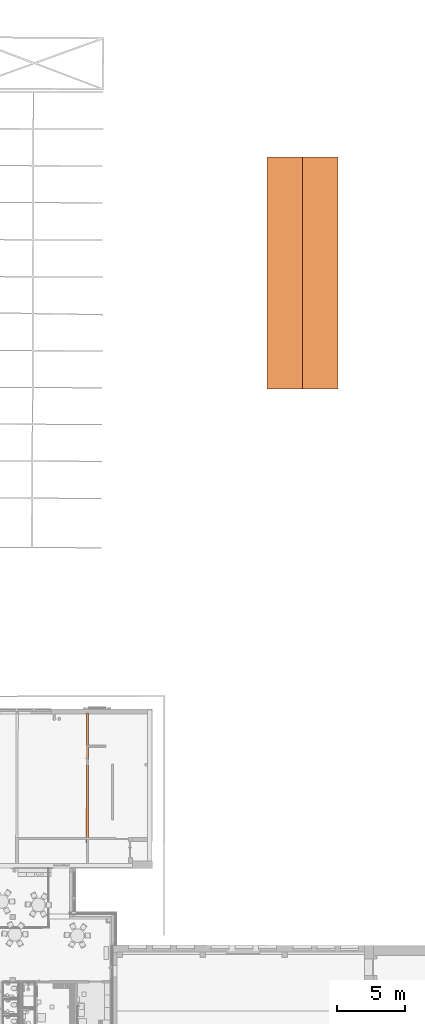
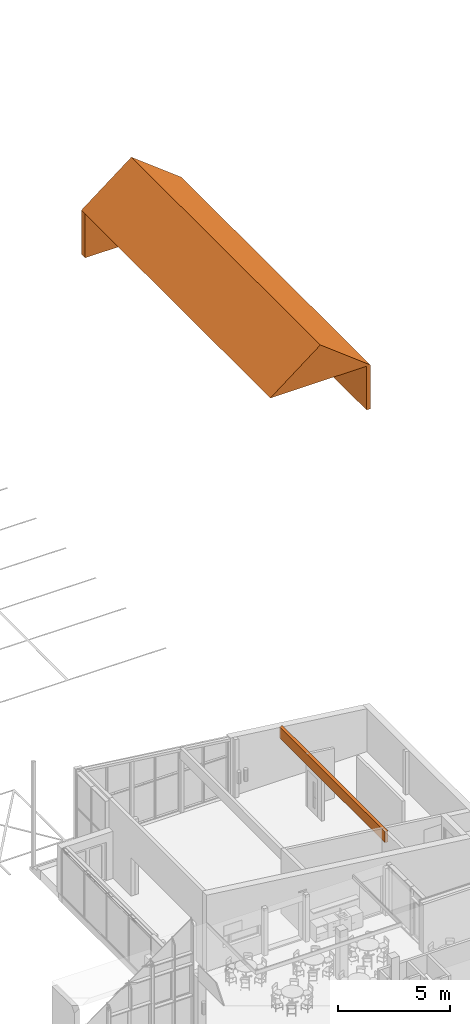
# One storey, part 299 of 301: 2 proxies.
"""IFC2X3 building model written with IfcOpenShell, lengths in millimetres."""

from ifc_helpers import new_model, entity, si_unit, converted_unit, derived_unit, money_unit, direction, frame, origin_with_axes, place, context, subcontext, project, spatial, faceted_brep, material, type_object, element, save


model = new_model("IFC2X3")

# Units and contexts
model_context = context("Model", 3, precision=0.01, world=origin_with_axes(), true_north=direction((0.0, 1.0)))
body_context = subcontext(model_context, "Body", "Model", "MODEL_VIEW")
ifc_project = project(units=[si_unit("LENGTHUNIT", "METRE", prefix="MILLI"), si_unit("AREAUNIT", "SQUARE_METRE"), si_unit("VOLUMEUNIT", "CUBIC_METRE"), converted_unit("PLANEANGLEUNIT", "DEGREE", entity("IfcPlaneAngleMeasure", 0.0174532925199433), si_unit("PLANEANGLEUNIT", "RADIAN"), dimensions=[0, 0, 0, 0, 0, 0, 0]), money_unit("EUR"), converted_unit("TIMEUNIT", "Year", entity("IfcTimeMeasure", 31557600.0), si_unit("TIMEUNIT", "SECOND"), dimensions=[0, 0, 1, 0, 0, 0, 0]), si_unit("MASSUNIT", "GRAM", prefix="KILO"), si_unit("THERMODYNAMICTEMPERATUREUNIT", "DEGREE_CELSIUS"), si_unit("LUMINOUSINTENSITYUNIT", "LUMEN"), si_unit("ENERGYUNIT", "JOULE", prefix="MEGA"), derived_unit("THERMALCONDUCTANCEUNIT", [(si_unit("POWERUNIT", "WATT"), 1), (si_unit("LENGTHUNIT", "METRE"), -1), (si_unit("THERMODYNAMICTEMPERATUREUNIT", "KELVIN"), -1)]), derived_unit("SPECIFICHEATCAPACITYUNIT", [(si_unit("ENERGYUNIT", "JOULE"), 1), (si_unit("MASSUNIT", "GRAM", prefix="KILO"), -1), (si_unit("THERMODYNAMICTEMPERATUREUNIT", "KELVIN"), -1)]), derived_unit("MASSDENSITYUNIT", [(si_unit("MASSUNIT", "GRAM", prefix="KILO"), 1), (si_unit("VOLUMEUNIT", "CUBIC_METRE"), -1)])], contexts=[model_context])

# Site, building, storey
site_placement = place(None, frame((0.0, 0.0, 8650.0), z_axis=(0.0, 0.0, 1.0), x_axis=(1.0, 0.0, 0.0)))
site = spatial("IfcSite", under=ifc_project, at=site_placement, Name="43301:001:0844", CompositionType="ELEMENT")
building_placement = place(site_placement, origin_with_axes())
building = spatial("IfcBuilding", under=site, at=building_placement, Name="Kuressaare Ametikooli tuulikute mehaanikute õppekorpus", CompositionType="ELEMENT")
storey_placement = place(building_placement, origin_with_axes())
storey = spatial("IfcBuildingStorey", under=building, at=storey_placement, Name="1.korrus", CompositionType="ELEMENT", Elevation=0.0)

# Proxies
ifc_material = material(Name="GENEERILINE - KONSTRUKTRIOON")
building_element_proxy_type_1 = type_object("IfcBuildingElementProxyType", Name="GENEERILINE - KONSTRUKTRIOON 160 x 600", PredefinedType="NOTDEFINED")
proxy_1_placement = place(storey_placement, frame((131380.9304994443, 43298.05325088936, 2889.613193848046), z_axis=(0.0, 0.0, 1.0), x_axis=(-0.9999976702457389, 0.002158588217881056, 0.0)))
element("IfcBuildingElementProxy", 1, at=proxy_1_placement, inside=storey, type_object=building_element_proxy_type_1, material=ifc_material, context=body_context, shape_type="Brep", body=[
    faceted_brep([(-80.0000000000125, 0.0, -600.0000000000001), (-80.0000000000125, 9498.29101877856, -600.0000000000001), (79.99999999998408, 9498.291018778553, -600.0000000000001), (79.99999999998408, 0.0, -600.0000000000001), (-80.0000000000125, 0.0, 0.0), (-80.0000000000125, 9498.29101877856, 0.0), (79.99999999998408, 9498.291018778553, 0.0), (79.99999999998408, 0.0, 0.0)], [[[0, 1, 2, 3]], [[4, 5, 1, 0]], [[2, 1, 5, 6]], [[3, 2, 6, 7]], [[4, 0, 3, 7]], [[7, 6, 5, 4]]]),
])
building_element_proxy_type_2 = type_object("IfcBuildingElementProxyType", Name="GENEERILINE - KONSTRUKTRIOON", PredefinedType="NOTDEFINED")
proxy_2_placement = place(storey_placement, frame((144489.8277229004, 83889.6449379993, -500.0), z_axis=(0.0, 0.0, 1.0), x_axis=(1.0, 0.0, 0.0)))
element("IfcBuildingElementProxy", 2, at=proxy_2_placement, inside=storey, type_object=building_element_proxy_type_2, material=ifc_material, context=body_context, shape_type="Brep", body=[
    faceted_brep([(0.0, -16943.94101561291, 2400.0), (0.0, -341.6545799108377, 2399.999999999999), (4979.99999999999, -341.6545799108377, 2399.999999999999), (4979.99999999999, -16943.94101561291, 2400.0), (2586.471164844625, -16943.94101561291, 4400.0), (2586.471164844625, 0.0, 4400.0), (0.0, 0.0, 2400.0), (0.0, -341.6545799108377, 0.0), (4979.99999999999, -341.6545799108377, 0.0), (4979.99999999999, -16943.94101561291, 0.0), (5172.942329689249, -16943.94101561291, 0.0), (5172.942329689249, -16943.94101561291, 2400.000000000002), (5172.942329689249, 0.0, 2400.000000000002), (0.0, 0.0, 0.0), (5172.942329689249, 0.0, 0.0), (4979.99999999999, 0.0, 0.0)], [[[0, 1, 2, 3]], [[0, 4, 5, 6, 1]], [[1, 7, 8, 2]], [[9, 3, 2, 8]], [[4, 0, 3, 9, 10, 11]], [[5, 4, 11, 12]], [[13, 6, 5, 12, 14, 15]], [[13, 7, 1, 6]], [[7, 13, 15, 8]], [[9, 8, 15, 14, 10]], [[11, 10, 14, 12]]]),
])

save(model, "model.ifc")
